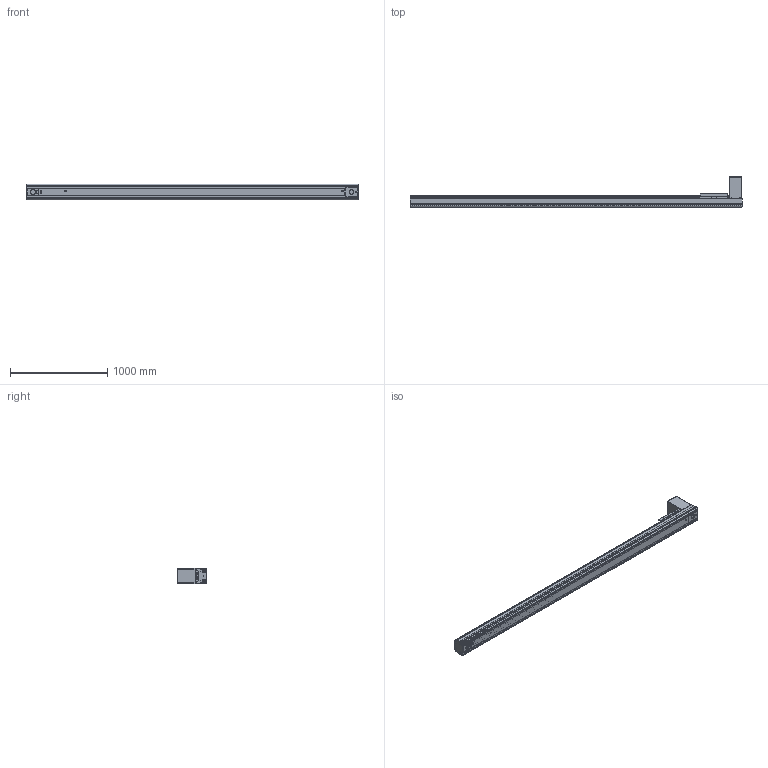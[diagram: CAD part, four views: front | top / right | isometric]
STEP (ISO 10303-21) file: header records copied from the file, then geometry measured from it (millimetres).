
FILE_DESCRIPTION((''),'2;1');
FILE_NAME('BE50G-BT-L19N-U5_IGS_PRT','2017-06-18T',(' '),(''),'PRO/ENGINEER BY PARAMETRIC TECHNOLOGY CORPORATION, 2015030','PRO/ENGINEER BY PARAMETRIC TECHNOLOGY CORPORATION, 2015030','');
FILE_SCHEMA(('CONFIG_CONTROL_DESIGN'));
Products named in the file (1): BE50G-BT-L19N-U5_IGS_PRT
Bounding box: 3420 x 309 x 160 mm (x, y, z)
Volume: 12785496.9 mm3; surface area: 5814990.2 mm2
Topology: 9 solids, 314 shells, 2239 faces, 6605 edges, 4572 vertices
Faces by surface type: cylinder 1185, plane 823, cone 188, sphere 23, torus 20
Entity records: 79461 total; most frequent: CARTESIAN_POINT 19258, DIRECTION 12385, ORIENTED_EDGE 12062, EDGE_CURVE 6531, AXIS2_PLACEMENT_3D 4713, VERTEX_POINT 4572, VECTOR 2959, LINE 2959
